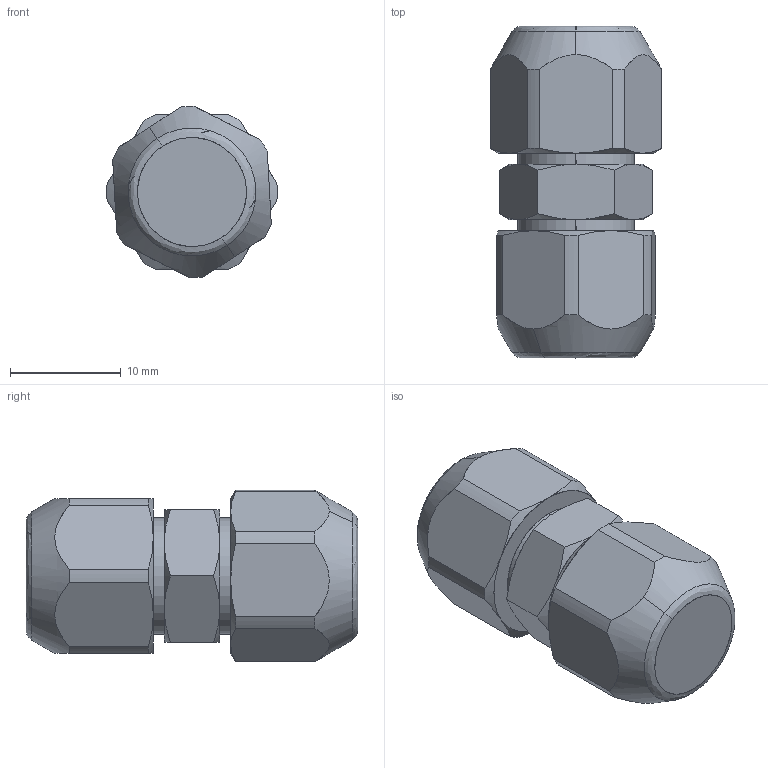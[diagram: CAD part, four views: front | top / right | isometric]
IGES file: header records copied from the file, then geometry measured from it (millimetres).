
Start section: SolidWorks IGES file using analytic representation for surfaces
Global section: file name: K:\Disegni Esecutivi\SERIE 61000\ASSIEMI\61040\61040_igs\6104000006A.IGS; native system: SolidWorks 2011; preprocessor: SolidWorks 2011; author: cad05; date: 111227.110000; units: millimetre
Bounding box: 15.49 x 30 x 15.5 mm (x, y, z)
Surface area: 1753.4 mm2 (no closed solid volume)
Topology: 0 solids, 0 shells, 72 faces, 968 edges, 968 vertices
Faces by surface type: revolution 44, bspline 28
